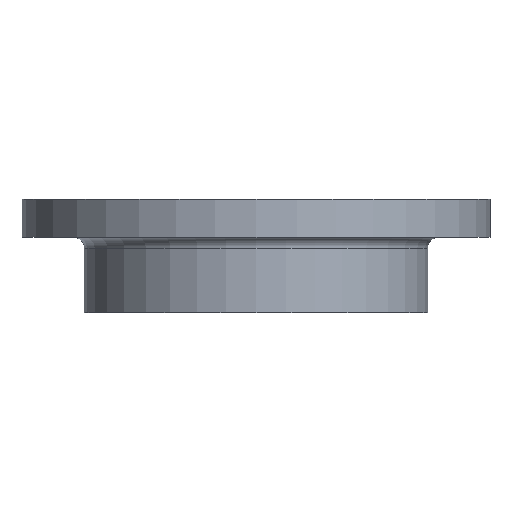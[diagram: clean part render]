
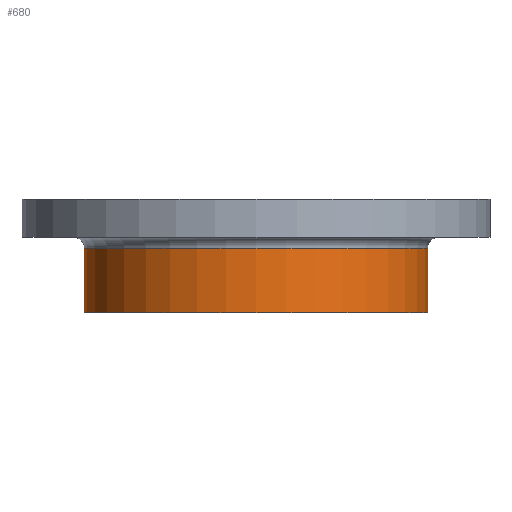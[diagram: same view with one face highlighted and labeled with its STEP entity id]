
A CAD part, front view. The second image highlights one B-rep face of the part: STEP entity #680.
In plain terms, the highlighted cylindrical face has radius 189 mm (diameter 378 mm), a partial arc.
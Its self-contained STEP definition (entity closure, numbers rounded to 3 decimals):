
#17 = DIRECTION ( 'NONE',  ( 1., 0., 0. ) ) ;
#18 = DIRECTION ( 'NONE',  ( 0., 0., 1. ) ) ;
#20 = CARTESIAN_POINT ( 'NONE',  ( 0., 0., -125. ) ) ;
#149 = CIRCLE ( 'NONE', #314, 189. ) ;
#157 = EDGE_CURVE ( 'NONE', #1373, #1432, #443, .T. ) ;
#159 = CARTESIAN_POINT ( 'NONE',  ( 189., 0., -125. ) ) ;
#190 = DIRECTION ( 'NONE',  ( 1., 0., 0. ) ) ;
#191 = DIRECTION ( 'NONE',  ( 0., 0., 1. ) ) ;
#192 = CARTESIAN_POINT ( 'NONE',  ( 0., 0., -54. ) ) ;
#288 = EDGE_LOOP ( 'NONE', ( #1038, #1040, #1047, #1048 ) ) ;
#314 = AXIS2_PLACEMENT_3D ( 'NONE', #20, #18, #17 ) ;
#338 = VERTEX_POINT ( 'NONE', #159 ) ;
#443 = CIRCLE ( 'NONE', #1299, 189. ) ;
#472 = CARTESIAN_POINT ( 'NONE',  ( 189., 0., -54. ) ) ;
#564 = CARTESIAN_POINT ( 'NONE',  ( -189., 0., -54. ) ) ;
#566 = EDGE_CURVE ( 'NONE', #1215, #338, #149, .T. ) ;
#658 = VECTOR ( 'NONE', #844, 1000. ) ;
#680 = ADVANCED_FACE ( 'NONE', ( #1293 ), #1291, .T. ) ;
#738 = CARTESIAN_POINT ( 'NONE',  ( -189., 0., -125. ) ) ;
#820 = DIRECTION ( 'NONE',  ( 0., 0., 1. ) ) ;
#823 = CARTESIAN_POINT ( 'NONE',  ( 189., 0., 0. ) ) ;
#824 = LINE ( 'NONE', #823, #1013 ) ;
#844 = DIRECTION ( 'NONE',  ( 0., 0., 1. ) ) ;
#845 = CARTESIAN_POINT ( 'NONE',  ( -189., 0., 0. ) ) ;
#847 = LINE ( 'NONE', #845, #658 ) ;
#936 = EDGE_CURVE ( 'NONE', #1215, #1373, #847, .T. ) ;
#988 = AXIS2_PLACEMENT_3D ( 'NONE', #1287, #1286, #1283 ) ;
#1013 = VECTOR ( 'NONE', #820, 1000. ) ;
#1033 = EDGE_CURVE ( 'NONE', #338, #1432, #824, .T. ) ;
#1038 = ORIENTED_EDGE ( 'NONE', *, *, #936, .F. ) ;
#1040 = ORIENTED_EDGE ( 'NONE', *, *, #566, .T. ) ;
#1047 = ORIENTED_EDGE ( 'NONE', *, *, #1033, .T. ) ;
#1048 = ORIENTED_EDGE ( 'NONE', *, *, #157, .F. ) ;
#1215 = VERTEX_POINT ( 'NONE', #738 ) ;
#1283 = DIRECTION ( 'NONE',  ( 1., 0., 0. ) ) ;
#1286 = DIRECTION ( 'NONE',  ( 0., 0., 1. ) ) ;
#1287 = CARTESIAN_POINT ( 'NONE',  ( 0., 0., 0. ) ) ;
#1291 = CYLINDRICAL_SURFACE ( 'NONE', #988, 189. ) ;
#1293 = FACE_OUTER_BOUND ( 'NONE', #288, .T. ) ;
#1299 = AXIS2_PLACEMENT_3D ( 'NONE', #192, #191, #190 ) ;
#1373 = VERTEX_POINT ( 'NONE', #564 ) ;
#1432 = VERTEX_POINT ( 'NONE', #472 ) ;
